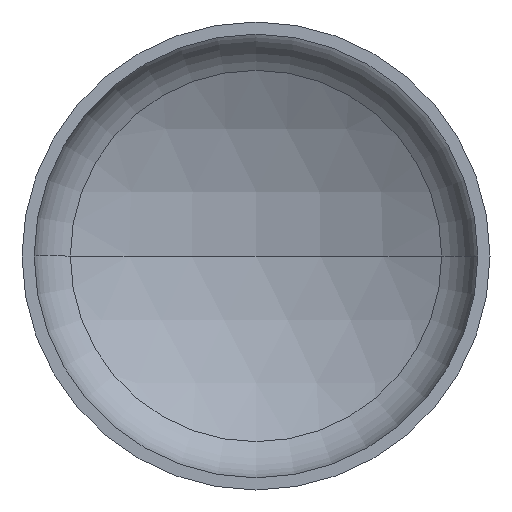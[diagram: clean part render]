
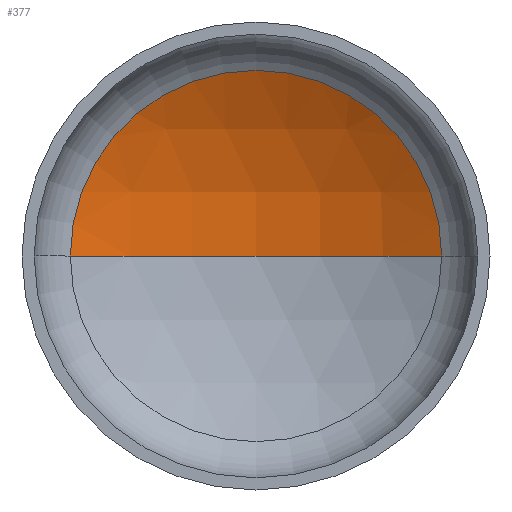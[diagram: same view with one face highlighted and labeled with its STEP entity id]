
A CAD part, front view. The second image highlights one B-rep face of the part: STEP entity #377.
In plain terms, the highlighted spherical face has radius 1200 mm.
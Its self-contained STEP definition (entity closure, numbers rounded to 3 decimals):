
#23 = CARTESIAN_POINT ( 'NONE',  ( 0., 477.659, 0. ) ) ;
#33 = AXIS2_PLACEMENT_3D ( 'NONE', #154, #157, #281 ) ;
#34 = AXIS2_PLACEMENT_3D ( 'NONE', #185, #175, #169 ) ;
#36 = AXIS2_PLACEMENT_3D ( 'NONE', #283, #280, #276 ) ;
#58 = EDGE_LOOP ( 'NONE', ( #76, #239, #409 ) ) ;
#59 = CARTESIAN_POINT ( 'NONE',  ( -595.052, 319.73, 0. ) ) ;
#66 = EDGE_CURVE ( 'NONE', #87, #288, #261, .T. ) ;
#67 = EDGE_CURVE ( 'NONE', #270, #87, #189, .T. ) ;
#69 = EDGE_CURVE ( 'NONE', #270, #288, #400, .T. ) ;
#76 = ORIENTED_EDGE ( 'NONE', *, *, #69, .F. ) ;
#87 = VERTEX_POINT ( 'NONE', #162 ) ;
#97 = CARTESIAN_POINT ( 'NONE',  ( 0., -722.341, 0. ) ) ;
#116 = DIRECTION ( 'NONE',  ( -1., 0., 0. ) ) ;
#123 = SPHERICAL_SURFACE ( 'NONE', #125, 1200. ) ;
#125 = AXIS2_PLACEMENT_3D ( 'NONE', #97, #146, #116 ) ;
#146 = DIRECTION ( 'NONE',  ( 0., 0., -1. ) ) ;
#154 = CARTESIAN_POINT ( 'NONE',  ( 0., -722.341, 0. ) ) ;
#157 = DIRECTION ( 'NONE',  ( 0., 0., 1. ) ) ;
#162 = CARTESIAN_POINT ( 'NONE',  ( 595.052, 319.73, 0. ) ) ;
#169 = DIRECTION ( 'NONE',  ( -1., 0., 0. ) ) ;
#175 = DIRECTION ( 'NONE',  ( 0., 0., -1. ) ) ;
#185 = CARTESIAN_POINT ( 'NONE',  ( 0., -722.341, 0. ) ) ;
#189 = CIRCLE ( 'NONE', #34, 1200. ) ;
#204 = FACE_OUTER_BOUND ( 'NONE', #58, .T. ) ;
#239 = ORIENTED_EDGE ( 'NONE', *, *, #67, .T. ) ;
#261 = CIRCLE ( 'NONE', #36, 595.052 ) ;
#270 = VERTEX_POINT ( 'NONE', #23 ) ;
#276 = DIRECTION ( 'NONE',  ( 1., 0., 0. ) ) ;
#280 = DIRECTION ( 'NONE',  ( 0., -1., 0. ) ) ;
#281 = DIRECTION ( 'NONE',  ( 1., 0., 0. ) ) ;
#283 = CARTESIAN_POINT ( 'NONE',  ( 0., 319.73, 0. ) ) ;
#288 = VERTEX_POINT ( 'NONE', #59 ) ;
#377 = ADVANCED_FACE ( 'NONE', ( #204 ), #123, .F. ) ;
#400 = CIRCLE ( 'NONE', #33, 1200. ) ;
#409 = ORIENTED_EDGE ( 'NONE', *, *, #66, .T. ) ;
